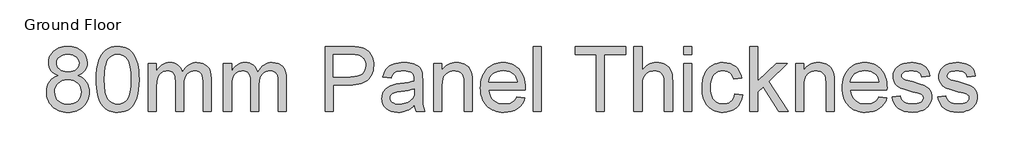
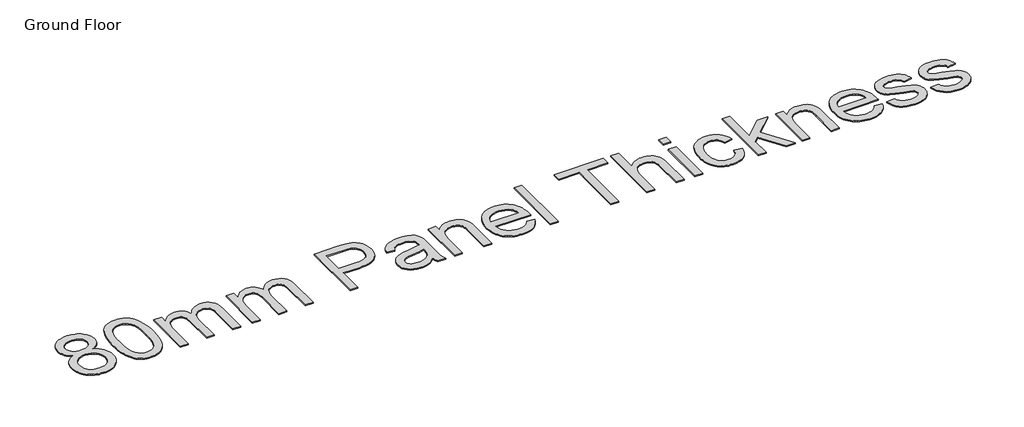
# One storey, part 13 of 14: 1 proxy.
"""IFC4 building model written with IfcOpenShell, lengths in millimetres."""

from ifc_helpers import new_model, si_unit, origin, origin_with_axes, place, context, project, spatial, polyline, outline, extrude, element, save

model = new_model("IFC4")

# Units and contexts
model_context = context("Model", 3, world=origin())
ifc_project = project(units=[si_unit("LENGTHUNIT", "METRE", prefix="MILLI")], contexts=[model_context])

# Site, building, storey
site = spatial("IfcSite", under=ifc_project)
building = spatial("IfcBuilding", under=site)
storey = spatial("IfcBuildingStorey", under=building, Name="Ground Floor", Elevation=0.0)

# Proxy
placement = place(None, origin())
element("IfcBuildingElementProxy", 1, Name="1200mm Arial", ObjectType="1200mm Arial", at=placement, inside=storey, context=model_context, shape_type="SweptSolid", body=[
    extrude(outline(polyline([(40752.4114106, 8749.7636274), (40710.1517337, 8767.4099342), (40673.7562259, 8788.4994229), (40643.2248871, 8813.0320933), (40618.5577174, 8841.0079456), (40599.5395178, 8872.1579811), (40585.9550895, 8906.2132013), (40577.8044326, 8943.1736061), (40575.0875469, 8983.0391956), (40581.0055157, 9042.9541459), (40588.4029766, 9071.0420809), (40598.7594219, 9097.8836558), (40612.0748516, 9123.4788707), (40628.3492657, 9147.8277254), (40669.7750469, 9192.7863547), (40694.4287668, 9212.6922496), (40721.0461762, 9229.9440251), (40749.6272753, 9244.5416814), (40780.172064, 9256.4852183), (40847.1527103, 9272.4099342), (40921.9881151, 9277.7181729), (40997.1821847, 9272.2844016), (41064.6649617, 9255.9830876), (41095.5146155, 9243.7571022), (41124.4364461, 9228.8142311), (41151.4304535, 9211.1544744), (41176.4966378, 9190.777832), (41218.6756151, 9144.940474), (41235.2459276, 9120.2464044), (41248.803456, 9094.3687411), (41259.3482003, 9067.307484), (41266.8801606, 9039.0626331), (41272.9057288, 8979.0221501), (41270.2247096, 8940.5643199), (41262.181652, 8904.6709428), (41248.7765562, 8871.3420188), (41230.0094219, 8840.5775479), (41205.7905832, 8812.7899946), (41176.0303736, 8788.3918234), (41140.7287934, 8767.3830344), (41099.8858424, 8749.7636274), (41148.1710874, 8729.2211026), (41190.3052316, 8703.1730734), (41226.2882749, 8671.6195401), (41256.1202174, 8634.5605024), (41279.5320604, 8592.8208895), (41296.2548055, 8547.2256303), (41306.2884525, 8497.7747247), (41309.6330015, 8444.4681729), (41307.9741769, 8407.0684037), (41302.9977032, 8371.1929598), (41294.7035803, 8336.8418412), (41283.0918083, 8304.0150479), (41268.1623871, 8272.7125798), (41249.9153168, 8242.9344371), (41228.3505974, 8214.6806196), (41203.4682288, 8187.9511274), (41175.8779411, 8163.606756), (41146.1894645, 8142.5083007), (41114.4027991, 8124.6557617), (41080.5179447, 8110.0491388), (41044.5349013, 8098.6884321), (41006.4536691, 8090.5736416), (40966.2742479, 8085.7047673), (40923.9966378, 8084.0818092), (40881.7190278, 8085.7114923), (40841.5396066, 8090.6005415), (40803.4583743, 8098.7489568), (40767.475331, 8110.1567382), (40733.5904766, 8124.8238858), (40701.8038111, 8142.7503994), (40672.1153346, 8163.9362792), (40644.5250469, 8188.3815251), (40619.6426783, 8215.2612082), (40598.0779589, 8243.7503994), (40579.8308886, 8273.8490988), (40564.9014674, 8305.5573064), (40553.2896954, 8338.8750221), (40544.9955725, 8373.802246), (40540.0190988, 8410.3389781), (40538.3602742, 8448.4852183), (40541.8393225, 8504.221724), (40552.2764674, 8555.2238547), (40569.6717089, 8601.4916104), (40594.0250469, 8643.0249911), (40624.7984844, 8679.0708007), (40661.4540242, 8708.8758433), (40703.9916663, 8732.4401189), (40752.4114106, 8749.7636274)]), holes=[polyline([(40721.9966378, 8978.7352183), (40725.2515207, 8945.0565962), (40735.0161691, 8914.605957), (40751.2905832, 8887.3833007), (40774.0747628, 8863.3886274), (40803.0817763, 8843.8055308), (40838.0246918, 8829.8176047), (40878.9035093, 8821.424849), (40925.7182288, 8818.6272638), (40971.3762543, 8821.4069158), (41011.3673765, 8829.7458717), (41045.6915952, 8843.6441317), (41074.3489106, 8863.1016956), (41096.9447913, 8886.5942382), (41113.084706, 8912.5974342), (41122.7686549, 8941.1112837), (41125.9966378, 8972.1357865), (41122.6610555, 9004.370783), (41112.6543083, 9033.9337268), (41095.9763964, 9060.8246182), (41072.6273197, 9085.043457), (41043.3244077, 9105.0659179), (41008.7849901, 9119.3676757), (40969.0090668, 9127.9487304), (40923.9966378, 9130.809082), (40878.6345107, 9128.0114967), (40838.6702884, 9119.6187411), (40804.1039709, 9105.6308149), (40774.9355583, 9086.0477183), (40751.7747806, 9062.5551757), (40735.231368, 9036.8389115), (40725.3053204, 9008.8989257), (40721.9966378, 8978.7352183)]), polyline([(40685.2693651, 8453.6499911), (40691.4025327, 8397.4472212), (40709.8020356, 8343.0377751), (40724.4265917, 8317.7967418), (40743.7675895, 8295.5864257), (40767.8250292, 8276.406827), (40796.5989106, 8260.2579456), (40827.9820782, 8247.4536132), (40859.8673765, 8238.3076615), (40892.2548055, 8232.8200905), (40925.1443651, 8230.9909001), (40978.262618, 8234.8375798), (41025.1401038, 8246.3776189), (41065.7768225, 8265.6110173), (41100.1727742, 8292.5377751), (41127.5388964, 8325.4004349), (41147.0861265, 8362.4415393), (41158.8144645, 8403.6610884), (41162.7239106, 8449.059082), (41158.6889319, 8495.1833717), (41146.5839958, 8537.1471501), (41126.4091023, 8574.9504172), (41098.1642515, 8608.5931729), (41062.8357714, 8636.2103604), (41021.4099901, 8655.9369229), (40973.8869077, 8667.7728604), (40920.2665242, 8671.7181729), (40867.9283672, 8667.8266601), (40821.6695782, 8656.1521217), (40781.490157, 8636.6945578), (40747.3901038, 8609.4539683), (40720.2122806, 8576.367143), (40700.7995498, 8539.3708717), (40689.1519113, 8498.4651544), (40685.2693651, 8453.6499911)])]), origin_with_axes(), (0.0, 0.0, 1.0), 20.0),
    extrude(outline(polyline([(41438.178456, 8680.6130592), (41440.8774084, 8779.4341707), (41448.9742657, 8868.7327325), (41462.4690278, 8948.5087446), (41481.3616947, 9018.762207), (41505.5715668, 9080.0669832), (41535.0179447, 9132.9969371), (41569.7008282, 9177.5520685), (41609.6202174, 9213.7323774), (41654.9106116, 9241.7261629), (41705.70651, 9261.721724), (41762.0079127, 9273.7190607), (41823.8148197, 9277.7181729), (41870.2619077, 9275.3509854), (41914.3418083, 9268.2494229), (41956.0545214, 9256.4134854), (41995.4000469, 9239.8431729), (42031.4279234, 9218.8164506), (42063.187689, 9193.6112837), (42090.6793438, 9164.2276722), (42113.9028878, 9130.6656161), (42134.0239816, 9093.0596146), (42152.2082856, 9051.5441672), (42182.7665242, 8956.7849342), (42194.4410626, 8901.0573952), (42202.7800185, 8836.452903), (42207.7833921, 8762.9714577), (42209.4511833, 8680.6130592), (42206.7791307, 8582.4196111), (42198.7629731, 8493.5693803), (42185.4027103, 8414.0623668), (42166.6983424, 8343.8985706), (42142.6767692, 8282.5668945), (42113.3648907, 8229.5562411), (42078.7627067, 8184.8666104), (42038.8702174, 8148.4980024), (41993.5260235, 8120.3159179), (41942.5687259, 8100.1858575), (41885.9983246, 8088.1078213), (41823.8148197, 8084.0818092), (41782.209706, 8085.8303), (41742.9000469, 8091.0757723), (41705.8858424, 8099.8182261), (41671.1670924, 8112.0576615), (41638.7437969, 8127.7940784), (41608.615956, 8147.0274768), (41580.7835697, 8169.7578568), (41555.2466378, 8195.9852183), (41527.8087827, 8237.5141157), (41504.0293083, 8284.485751), (41483.9082145, 8336.9001242), (41467.4455015, 8394.7572354), (41454.6411691, 8458.0570844), (41445.4952174, 8526.7996715), (41440.0076464, 8600.9849964), (41438.178456, 8680.6130592)]), holes=[polyline([(41585.0875469, 8680.8999911), (41589.3915242, 8553.1884321), (41602.303456, 8449.812278), (41611.9874049, 8407.2499777), (41623.8233424, 8370.7715287), (41637.8112685, 8340.3769309), (41653.9511833, 8316.0661842), (41690.3915242, 8278.8457474), (41730.8489106, 8252.2597212), (41775.3233424, 8236.3081054), (41823.8148197, 8230.9909001), (41872.3062969, 8236.3260386), (41916.7807288, 8252.3314541), (41957.2381151, 8279.0071466), (41993.678456, 8316.3531161), (42009.8183708, 8340.7221457), (42023.8062969, 8371.1481267), (42035.6422344, 8407.6310591), (42045.3261833, 8450.1709428), (42058.2381151, 8553.4215642), (42062.5420924, 8680.8999911), (42058.381581, 8805.2311345), (42045.9000469, 8906.7870649), (42036.5388964, 8949.0243252), (42025.0974901, 8985.5677822), (42011.5758282, 9016.417436), (41995.9739106, 9041.5732865), (41960.1432998, 9080.613947), (41919.2196492, 9108.5001331), (41873.2029589, 9125.2318447), (41822.0932288, 9130.809082), (41773.8528168, 9125.8953746), (41730.131581, 9111.1542524), (41690.9295214, 9086.5857155), (41656.2466378, 9052.1897638), (41639.5687259, 9024.3573774), (41625.1145356, 8991.2167524), (41612.8840668, 8952.7678888), (41602.8773197, 8909.0107865), (41589.5349901, 8805.5718661), (41585.0875469, 8680.8999911)])]), origin_with_axes(), (0.0, 0.0, 1.0), 20.0),
    extrude(outline(polyline([(42374.7239106, 8102.4454456), (42374.7239106, 8965.5363547), (42521.6330015, 8965.5363547), (42521.6330015, 8823.5051047), (42542.1486265, 8857.8920898), (42565.8205015, 8888.7462268), (42592.6486265, 8916.0675159), (42622.6330015, 8939.855957), (42655.289429, 8959.1252219), (42690.1337117, 8972.8889825), (42727.1658495, 8981.1472389), (42766.3858424, 8983.8999911), (42809.264216, 8981.0934392), (42848.0896776, 8972.6737837), (42882.8622273, 8958.6410244), (42913.5818651, 8938.9951615), (42940.1589248, 8914.2921253), (42962.5037401, 8885.0878462), (42980.6163111, 8851.3823242), (42994.4966378, 8813.1755592), (43020.3294681, 8853.1890979), (43048.0452884, 8887.8674982), (43077.6440988, 8917.2107599), (43109.1258992, 8941.2188831), (43142.4906897, 8959.8918678), (43177.7384702, 8973.2297141), (43214.8692408, 8981.2324218), (43253.8830015, 8983.8999911), (43312.6950576, 8979.4615145), (43364.315885, 8966.1460848), (43408.7454837, 8943.953702), (43445.9838538, 8912.8843661), (43475.421265, 8872.5794122), (43496.4479873, 8822.6801757), (43509.0640207, 8763.1866565), (43513.2693651, 8694.0988547), (43513.2693651, 8102.4454456), (43366.3602742, 8102.4454456), (43366.3602742, 8630.9738547), (43362.9529589, 8704.2490678), (43352.7310128, 8753.637207), (43344.5355228, 8771.4538795), (43333.578314, 8787.459295), (43319.8593864, 8801.6534534), (43303.3787401, 8814.0363547), (43284.7371386, 8824.0789683), (43264.5353452, 8831.2522638), (43219.4511833, 8836.9909001), (43177.8191698, 8833.3145862), (43139.8634702, 8822.2856445), (43105.5840846, 8803.9040749), (43074.9810128, 8778.1698774), (43049.8117124, 8744.3298561), (43031.8336407, 8701.6308149), (43021.0467976, 8650.0727538), (43017.4511833, 8589.6556729), (43017.4511833, 8102.4454456), (42870.5420924, 8102.4454456), (42870.5420924, 8647.3289683), (42868.4170036, 8691.8392666), (42862.0417373, 8730.3957297), (42851.4162934, 8762.9983575), (42836.5406719, 8789.6471501), (42816.8230761, 8810.3600408), (42791.6717089, 8825.1549626), (42761.0865704, 8834.0319158), (42725.0676606, 8836.9909001), (42696.2130796, 8835.0182439), (42668.4703594, 8829.1002751), (42641.8395001, 8819.2369939), (42616.3205015, 8805.4284001), (42593.0790242, 8787.8179598), (42573.2807288, 8766.5491388), (42556.9256151, 8741.6219371), (42544.0136833, 8713.0363547), (42534.222135, 8679.2680663), (42527.2281719, 8638.7927467), (42521.6330015, 8537.7210138), (42521.6330015, 8102.4454456), (42374.7239106, 8102.4454456)])), origin_with_axes(), (0.0, 0.0, 1.0), 20.0),
    extrude(outline(polyline([(43733.6330015, 8102.4454456), (43733.6330015, 8965.5363547), (43880.5420924, 8965.5363547), (43880.5420924, 8823.5051047), (43901.0577174, 8857.8920898), (43924.7295924, 8888.7462268), (43951.5577174, 8916.0675159), (43981.5420924, 8939.855957), (44014.1985199, 8959.1252219), (44049.0428026, 8972.8889825), (44086.0749404, 8981.1472389), (44125.2949333, 8983.8999911), (44168.1733069, 8981.0934392), (44206.9987685, 8972.6737837), (44241.7713182, 8958.6410244), (44272.490956, 8938.9951615), (44299.0680157, 8914.2921253), (44321.412831, 8885.0878462), (44339.525402, 8851.3823242), (44353.4057288, 8813.1755592), (44379.238559, 8853.1890979), (44406.9543793, 8887.8674982), (44436.5531897, 8917.2107599), (44468.0349901, 8941.2188831), (44501.3997806, 8959.8918678), (44536.6475611, 8973.2297141), (44573.7783317, 8981.2324218), (44612.7920924, 8983.8999911), (44671.6041485, 8979.4615145), (44723.2249759, 8966.1460848), (44767.6545746, 8943.953702), (44804.8929447, 8912.8843661), (44834.3303559, 8872.5794122), (44855.3570782, 8822.6801757), (44867.9731116, 8763.1866565), (44872.178456, 8694.0988547), (44872.178456, 8102.4454456), (44725.2693651, 8102.4454456), (44725.2693651, 8630.9738547), (44721.8620498, 8704.2490678), (44711.6401038, 8753.637207), (44703.4446137, 8771.4538795), (44692.4874049, 8787.459295), (44678.7684773, 8801.6534534), (44662.287831, 8814.0363547), (44643.6462295, 8824.0789683), (44623.4444361, 8831.2522638), (44578.3602742, 8836.9909001), (44536.7282607, 8833.3145862), (44498.7725611, 8822.2856445), (44464.4931755, 8803.9040749), (44433.8901038, 8778.1698774), (44408.7208033, 8744.3298561), (44390.7427316, 8701.6308149), (44379.9558886, 8650.0727538), (44376.3602742, 8589.6556729), (44376.3602742, 8102.4454456), (44229.4511833, 8102.4454456), (44229.4511833, 8647.3289683), (44227.3260945, 8691.8392666), (44220.9508282, 8730.3957297), (44210.3253843, 8762.9983575), (44195.4497628, 8789.6471501), (44175.732167, 8810.3600408), (44150.5807998, 8825.1549626), (44119.9956613, 8834.0319158), (44083.9767515, 8836.9909001), (44055.1221705, 8835.0182439), (44027.3794503, 8829.1002751), (44000.748591, 8819.2369939), (43975.2295924, 8805.4284001), (43951.9881151, 8787.8179598), (43932.1898197, 8766.5491388), (43915.834706, 8741.6219371), (43902.9227742, 8713.0363547), (43893.1312259, 8679.2680663), (43886.1372628, 8638.7927467), (43880.5420924, 8537.7210138), (43880.5420924, 8102.4454456), (43733.6330015, 8102.4454456)])), origin_with_axes(), (0.0, 0.0, 1.0), 20.0),
    extrude(outline(polyline([(45569.9966378, 8102.4454456), (45569.9966378, 9277.7181729), (46005.5591378, 9277.7181729), (46106.9895356, 9274.9205876), (46181.1614106, 9266.527832), (46222.040228, 9257.7136452), (46259.4579305, 9245.6176757), (46293.4145178, 9230.2399236), (46323.9099901, 9211.5803888), (46351.2671457, 9189.2535067), (46375.8087827, 9162.8737126), (46397.5349013, 9132.4410067), (46416.4455015, 9097.9553888), (46431.7604873, 9060.5556196), (46442.6997628, 9021.3804598), (46449.2633282, 8980.4299094), (46451.4511833, 8937.7039683), (46445.5421812, 8865.5585493), (46438.1559285, 8831.6512783), (46427.8151748, 8799.1876331), (46414.51992, 8768.1676136), (46398.2701641, 8738.5912197), (46379.0659072, 8710.4584516), (46356.9071492, 8683.7693092), (46330.8927449, 8659.4249378), (46300.1215491, 8638.3264825), (46264.5935617, 8620.4739435), (46224.3087827, 8605.8673206), (46179.2672122, 8594.5066139), (46129.4688502, 8586.3918234), (46074.9136966, 8581.5229492), (46015.6017515, 8579.8999911), (45716.9057288, 8579.8999911), (45716.9057288, 8102.4454456), (45569.9966378, 8102.4454456)]), holes=[polyline([(45716.9057288, 8726.809082), (46024.209706, 8726.809082), (46094.8666663, 8730.1805308), (46154.4767515, 8740.2948774), (46203.0399617, 8757.1521217), (46240.5562969, 8780.7522638), (46268.5500824, 8810.4676402), (46288.5456435, 8845.6705876), (46300.5429802, 8886.3611061), (46304.5420924, 8932.5391956), (46302.1838715, 8966.8275479), (46295.1092089, 8998.5335138), (46283.3181045, 9027.6570933), (46266.8105583, 9054.1982865), (46246.4652991, 9077.2962979), (46223.1610555, 9096.090332), (46196.8978275, 9110.5803888), (46167.6756151, 9120.7664683), (46111.006581, 9128.2984286), (46020.7665242, 9130.809082), (45716.9057288, 9130.809082), (45716.9057288, 8726.809082)])]), origin_with_axes(), (0.0, 0.0, 1.0), 20.0),
    extrude(outline(polyline([(47185.9966378, 8212.6272638), (47151.1613218, 8179.9349697), (47115.8059418, 8152.4433149), (47079.9304979, 8130.1522993), (47043.5349901, 8113.0619229), (47006.2069539, 8100.3831232), (46967.5339248, 8091.3268376), (46927.5159028, 8085.8930663), (46886.1528878, 8084.0818092), (46820.7413999, 8088.4395862), (46763.3819361, 8101.5129172), (46714.0744965, 8123.3018021), (46672.819081, 8153.8062411), (46640.243353, 8191.0894442), (46616.9749759, 8233.2146217), (46603.0139496, 8280.1817737), (46598.3602742, 8331.9909001), (46600.1177316, 8363.1409357), (46605.3901038, 8392.8921786), (46614.1773907, 8421.2446288), (46626.4795924, 8448.1982865), (46641.6421457, 8473.1613547), (46659.0104873, 8495.5420365), (46678.5846172, 8515.340332), (46700.3645356, 8532.5562411), (46748.9636123, 8560.5320933), (46803.2295924, 8580.7607865), (46856.0967799, 8592.0228604), (46930.3403878, 8602.8545365), (47080.5491947, 8626.0960138), (47138.5452884, 8639.2231445), (47185.1358424, 8653.3545365), (47185.9966378, 8686.0647638), (47183.4680512, 8721.6801757), (47175.8822913, 8751.6286842), (47163.239358, 8775.9102893), (47145.5392515, 8794.5249911), (47114.9451464, 8813.1038263), (47077.6798765, 8826.3744229), (47033.7434418, 8834.3367808), (46983.1358424, 8836.9909001), (46936.0790242, 8835.2244761), (46895.6216378, 8829.9252041), (46861.7636833, 8821.0930841), (46834.5051606, 8808.7281161), (46812.1065455, 8791.8619051), (46792.828314, 8769.5260564), (46776.670466, 8741.7205699), (46763.6330015, 8708.4454456), (46616.7239106, 8726.809082), (46627.9052849, 8769.1315251), (46642.2249759, 8807.1499911), (46659.6829837, 8840.8644797), (46680.2793083, 8870.2749911), (46704.9016449, 8895.973322), (46734.437689, 8918.5512695), (46768.8874404, 8938.0088334), (46808.2508992, 8954.3460138), (46851.7300363, 8967.2758788), (46898.5268225, 8976.5114967), (46948.6412579, 8982.0528675), (47002.0733424, 8983.8999911), (47054.3038999, 8982.2680663), (47101.387618, 8977.3722922), (47143.3244965, 8969.2126686), (47180.1145356, 8957.7891956), (47212.0626002, 8943.8999023), (47239.4735555, 8928.3428178), (47262.3474013, 8911.117942), (47280.6841378, 8892.2252751), (47295.5507927, 8871.1985528), (47308.0143935, 8847.5715109), (47325.7324333, 8792.5164683), (47331.1124049, 8741.7295365), (47332.9057288, 8663.9710138), (47332.9057288, 8481.1954456), (47334.7707856, 8321.984153), (47340.365956, 8225.9695933), (47351.412831, 8162.8804598), (47369.6330015, 8102.4454456), (47222.7239106, 8102.4454456), (47209.6685128, 8126.9781161), (47199.1955015, 8153.5193092), (47185.9966378, 8212.6272638)]), holes=[polyline([(47185.9966378, 8506.4454456), (47141.593939, 8493.7307794), (47087.2920924, 8481.9845081), (46948.990956, 8461.3971501), (46872.7746918, 8450.1350763), (46822.5974901, 8437.5818092), (46789.7079305, 8421.2984286), (46765.3545924, 8398.8460138), (46750.2906719, 8371.9461558), (46745.2693651, 8342.3204456), (46748.004184, 8319.4914328), (46756.2086407, 8298.6350763), (46769.8827351, 8279.751376), (46789.0264674, 8262.840332), (46813.460505, 8248.9062055), (46843.0055157, 8238.9532581), (46877.6614993, 8232.9814896), (46917.428456, 8230.9909001), (46958.0293083, 8233.1877219), (46996.334706, 8239.7781871), (47032.3446492, 8250.7622957), (47066.0591378, 8266.1400479), (47096.4739106, 8284.6381835), (47122.584706, 8304.9834428), (47144.3915242, 8327.1758256), (47161.8943651, 8351.215332), (47172.0625114, 8372.7352183), (47179.3254731, 8398.8460138), (47183.6832501, 8429.5477183), (47185.1358424, 8464.840332), (47185.9966378, 8506.4454456)])]), origin_with_axes(), (0.0, 0.0, 1.0), 20.0),
    extrude(outline(polyline([(47534.9057288, 8102.4454456), (47534.9057288, 8965.5363547), (47681.8148197, 8965.5363547), (47681.8148197, 8845.0249911), (47706.0515917, 8877.5738192), (47732.8528168, 8905.7828036), (47762.2184951, 8929.6519442), (47794.1486265, 8949.1812411), (47828.643211, 8964.3706942), (47865.7022486, 8975.2203036), (47905.3257394, 8981.7300692), (47947.5136833, 8983.8999911), (47984.4830547, 8982.1515003), (48019.9281009, 8976.906028), (48053.8488218, 8968.1635742), (48086.2452174, 8955.9241388), (48115.8888609, 8940.8422851), (48141.5513253, 8923.5725763), (48163.2326109, 8904.1150124), (48180.9327174, 8882.4695933), (48207.653243, 8832.7227893), (48224.9767515, 8774.4397638), (48230.7871208, 8718.7032581), (48232.7239106, 8632.4085138), (48232.7239106, 8102.4454456), (48085.8148197, 8102.4454456), (48085.8148197, 8612.6102183), (48081.5825753, 8688.5754172), (48076.2922699, 8718.3266601), (48068.8858424, 8742.590332), (48058.7983957, 8763.0252574), (48045.4650327, 8781.2902609), (48028.8857536, 8797.3853426), (48009.0605583, 8811.3105024), (47986.6709099, 8822.5456764), (47962.3982714, 8830.5708007), (47936.2426428, 8835.3858753), (47908.2040242, 8836.9909001), (47863.5950931, 8833.3863192), (47822.1603452, 8822.5725763), (47783.8997806, 8804.5496715), (47748.8133992, 8779.3176047), (47733.1106071, 8763.280806), (47719.5015207, 8744.0070578), (47707.9861398, 8721.49636), (47698.5644645, 8695.7487126), (47686.0022309, 8634.5425692), (47681.8148197, 8560.3886274), (47681.8148197, 8102.4454456), (47534.9057288, 8102.4454456)])), origin_with_axes(), (0.0, 0.0, 1.0), 20.0),
    extrude(outline(polyline([(49039.0023197, 8359.5363547), (49183.0420924, 8341.1727183), (49160.957309, 8283.4814896), (49131.1432998, 8232.6407581), (49093.6000647, 8188.6505237), (49048.3276038, 8151.5107865), (48995.7921812, 8122.010609), (48936.4600611, 8100.9390536), (48870.3312437, 8088.2961203), (48797.4057288, 8084.0818092), (48750.586526, 8085.8997913), (48706.2510768, 8091.3537375), (48664.3993811, 8100.4436478), (48625.031439, 8113.1695223), (48588.1472504, 8129.5313609), (48553.7468154, 8149.5291636), (48521.8301339, 8173.1629305), (48492.397206, 8200.4326615), (48465.9680956, 8230.9841752), (48443.0628665, 8264.4632901), (48423.6815189, 8300.8700061), (48407.8240526, 8340.2043234), (48395.4904677, 8382.4662419), (48386.6807643, 8427.6557617), (48381.3949422, 8475.7728826), (48379.6330015, 8526.8176047), (48381.4128754, 8579.5996093), (48386.7524972, 8629.34193), (48395.6518669, 8676.0445667), (48408.1109844, 8719.7075195), (48424.1298498, 8760.3307883), (48443.7084631, 8797.9143732), (48466.8468243, 8832.4582741), (48493.5449333, 8863.9624911), (48523.0809773, 8892.0728426), (48554.7331435, 8916.4351473), (48588.5014319, 8937.0494051), (48624.3858424, 8953.9156161), (48662.3863751, 8967.0337801), (48702.5030299, 8976.4038973), (48744.7358069, 8982.0259676), (48789.084706, 8983.8999911), (48831.9832545, 8982.0304509), (48872.8777636, 8976.4218305), (48911.7682332, 8967.0741299), (48948.6546634, 8953.987349), (48983.5370542, 8937.1614879), (49016.4154056, 8916.5965465), (49047.2897176, 8892.2925248), (49076.1599901, 8864.2494229), (49102.2864772, 8832.8169389), (49124.9294326, 8798.3447709), (49144.0888564, 8760.832919), (49159.7647486, 8720.2813831), (49171.9571093, 8676.6901633), (49180.6659383, 8630.0592595), (49185.8912357, 8580.3886718), (49187.6330015, 8527.6784001), (49186.772206, 8488.0818092), (48526.5420924, 8488.0818092), (48535.0514141, 8429.4580521), (48551.9714248, 8378.1151899), (48577.3021243, 8334.0532226), (48611.0435128, 8297.2721501), (48651.3305334, 8268.2741033), (48696.2981293, 8247.5612126), (48745.9463005, 8235.1334783), (48800.2750469, 8230.9909001), (48840.9117657, 8232.9097567), (48878.4639674, 8238.6663263), (48912.931652, 8248.260609), (48944.3148197, 8261.6926047), (48972.6134702, 8279.3209783), (48997.8276038, 8301.5043945), (49019.9572202, 8328.2428533), (49039.0023197, 8359.5363547)]), holes=[polyline([(48526.5420924, 8634.9909001), (49040.7239106, 8634.9909001), (49033.1740171, 8676.5601473), (49020.8538822, 8712.605957), (49003.7635057, 8743.1283291), (48981.9028878, 8768.1272638), (48941.8400327, 8798.2551047), (48896.2537401, 8819.7749911), (48845.14401, 8832.6869229), (48788.5108424, 8836.9909001), (48736.8541485, 8833.5566849), (48689.4834986, 8823.2540393), (48646.3988928, 8806.0829634), (48607.600331, 8782.043457), (48575.0425363, 8752.247381), (48550.6802316, 8717.8065962), (48534.513417, 8678.7211026), (48526.5420924, 8634.9909001)])]), origin_with_axes(), (0.0, 0.0, 1.0), 20.0),
    extrude(outline(polyline([(49334.5420924, 8102.4454456), (49334.5420924, 9277.7181729), (49481.4511833, 9277.7181729), (49481.4511833, 8102.4454456), (49334.5420924, 8102.4454456)])), origin_with_axes(), (0.0, 0.0, 1.0), 20.0),
    extrude(outline(polyline([(50473.0875469, 8102.4454456), (50473.0875469, 9130.809082), (50087.4511833, 9130.809082), (50087.4511833, 9277.7181729), (51005.6330015, 9277.7181729), (51005.6330015, 9130.809082), (50619.9966378, 9130.809082), (50619.9966378, 8102.4454456), (50473.0875469, 8102.4454456)])), origin_with_axes(), (0.0, 0.0, 1.0), 20.0),
    extrude(outline(polyline([(51152.5420924, 8102.4454456), (51152.5420924, 9277.7181729), (51299.4511833, 9277.7181729), (51299.4511833, 8845.5988547), (51325.6023285, 8878.0131835), (51353.4122984, 8906.1056018), (51382.8810927, 8929.8761097), (51414.0087117, 8949.324707), (51446.7951552, 8964.4513938), (51481.2404234, 8975.25617), (51517.344516, 8981.7390358), (51555.1074333, 8983.8999911), (51601.0344574, 8981.5417702), (51643.8410981, 8974.4671075), (51683.5273552, 8962.6760031), (51720.0932288, 8946.168457), (51752.6061904, 8925.5003994), (51780.1337117, 8901.2277609), (51802.6757927, 8873.3505415), (51820.2324333, 8841.8687411), (51833.4133637, 8804.8366033), (51842.828314, 8760.3083717), (51848.4772842, 8708.2840465), (51850.3602742, 8648.7636274), (51850.3602742, 8102.4454456), (51703.4511833, 8102.4454456), (51703.4511833, 8633.5562411), (51700.5280654, 8683.1595791), (51691.7587117, 8725.5178888), (51677.1431222, 8760.63117), (51656.6812969, 8788.4994229), (51630.8574333, 8809.7144442), (51600.1557288, 8824.8680308), (51564.5761833, 8833.9601828), (51524.1187969, 8836.9909001), (51492.60113, 8834.9465109), (51462.0339248, 8828.8133433), (51432.4171812, 8818.5913973), (51403.7508992, 8804.2806729), (51377.586304, 8786.4729669), (51355.4746208, 8765.7600763), (51337.4158495, 8742.142001), (51323.4099901, 8715.6187411), (51312.9280121, 8684.9708362), (51305.440885, 8648.9788263), (51300.9486087, 8607.6427112), (51299.4511833, 8560.9624911), (51299.4511833, 8102.4454456), (51152.5420924, 8102.4454456)])), origin_with_axes(), (0.0, 0.0, 1.0), 20.0),
    extrude(outline(polyline([(52052.3602742, 9130.809082), (52052.3602742, 9277.7181729), (52199.2693651, 9277.7181729), (52199.2693651, 9130.809082), (52052.3602742, 9130.809082)])), origin_with_axes(), (0.0, 0.0, 1.0), 20.0),
    extrude(outline(polyline([(52052.3602742, 8102.4454456), (52052.3602742, 8965.5363547), (52199.2693651, 8965.5363547), (52199.2693651, 8102.4454456), (52052.3602742, 8102.4454456)])), origin_with_axes(), (0.0, 0.0, 1.0), 20.0),
    extrude(outline(polyline([(52970.5420924, 8414.6272638), (53117.4511833, 8396.2636274), (53101.4726677, 8326.9426935), (53076.4916663, 8265.6020507), (53042.508179, 8212.2416992), (52999.522206, 8166.8616388), (52949.3450043, 8130.6454634), (52893.787831, 8104.7767666), (52832.8506861, 8089.2555486), (52766.5335697, 8084.0818092), (52724.2716512, 8085.8863414), (52684.1393047, 8091.2999378), (52646.1365304, 8100.3225985), (52610.2633282, 8112.9543234), (52576.519698, 8129.1951127), (52544.90564, 8149.0449662), (52515.421154, 8172.503884), (52488.0662401, 8199.5718661), (52463.4192453, 8230.011297), (52442.0585164, 8263.5845614), (52423.9840535, 8300.2916592), (52409.1958566, 8340.1325905), (52397.6939257, 8383.1073552), (52389.4782607, 8429.2159534), (52384.5488617, 8478.4583851), (52382.9057288, 8530.8346501), (52385.7122806, 8598.3801935), (52394.1319361, 8661.5679598), (52408.1646954, 8720.3979492), (52427.8105583, 8774.8701615), (52453.2040242, 8823.8906693), (52484.4795924, 8866.365545), (52521.6372628, 8902.2947886), (52564.6770356, 8931.6784001), (52611.6531542, 8954.5253462), (52660.6198623, 8970.8445933), (52711.5771599, 8980.6361416), (52764.5250469, 8983.8999911), (52829.7034028, 8979.4166814), (52888.6589248, 8965.9667524), (52941.391613, 8943.5502041), (52987.9014674, 8912.1670365), (53027.3994255, 8872.5345791), (53059.0964248, 8825.3701615), (53082.9924653, 8770.6737837), (53099.0875469, 8708.4454456), (52952.178456, 8690.0818092), (52940.7101499, 8724.3970614), (52925.5296634, 8754.1752041), (52906.6369965, 8779.4162375), (52884.0321492, 8800.1201615), (52858.2889851, 8816.2511097), (52829.981368, 8827.7732155), (52799.1092976, 8834.686479), (52765.6727742, 8836.9909001), (52715.7556045, 8832.4537908), (52670.7342089, 8818.8424626), (52630.6085874, 8796.1569158), (52595.3787401, 8764.3971501), (52580.0121963, 8744.9306196), (52566.6945249, 8722.827903), (52546.2057998, 8670.7139115), (52533.9125647, 8608.0551757), (52529.8148197, 8534.8516956), (52533.8228985, 8460.5453213), (52545.847135, 8397.1602893), (52565.8875292, 8344.6965997), (52578.9137854, 8322.5602583), (52593.944081, 8303.1542524), (52628.474532, 8271.5827858), (52667.9366236, 8249.0317382), (52712.3303559, 8235.5011097), (52761.6557288, 8230.9909001), (52801.4047522, 8233.8064186), (52837.728527, 8242.252974), (52870.6270533, 8256.3305663), (52900.100331, 8276.0391956), (52925.3234312, 8301.5940607), (52945.4714248, 8333.2103604), (52960.5443118, 8370.8880947), (52970.5420924, 8414.6272638)])), origin_with_axes(), (0.0, 0.0, 1.0), 20.0),
    extrude(outline(polyline([(53245.9966378, 8102.4454456), (53245.9966378, 9277.7181729), (53392.9057288, 9277.7181729), (53392.9057288, 8646.1812411), (53722.303456, 8965.5363547), (53925.4511833, 8965.5363547), (53592.0364106, 8642.1641956), (53943.8148197, 8102.4454456), (53772.2295924, 8102.4454456), (53486.7324333, 8540.0164683), (53392.9057288, 8449.059082), (53392.9057288, 8102.4454456), (53245.9966378, 8102.4454456)])), origin_with_axes(), (0.0, 0.0, 1.0), 20.0),
    extrude(outline(polyline([(54072.3602742, 8102.4454456), (54072.3602742, 8965.5363547), (54219.2693651, 8965.5363547), (54219.2693651, 8845.0249911), (54243.5061371, 8877.5738192), (54270.3073623, 8905.7828036), (54299.6730405, 8929.6519442), (54331.6031719, 8949.1812411), (54366.0977565, 8964.3706942), (54403.1567941, 8975.2203036), (54442.7802849, 8981.7300692), (54484.9682288, 8983.8999911), (54521.9376002, 8982.1515003), (54557.3826464, 8976.906028), (54591.3033672, 8968.1635742), (54623.6997628, 8955.9241388), (54653.3434063, 8940.8422851), (54679.0058708, 8923.5725763), (54700.6871563, 8904.1150124), (54718.3872628, 8882.4695933), (54745.1077884, 8832.7227893), (54762.4312969, 8774.4397638), (54768.2416663, 8718.7032581), (54770.178456, 8632.4085138), (54770.178456, 8102.4454456), (54623.2693651, 8102.4454456), (54623.2693651, 8612.6102183), (54619.0371208, 8688.5754172), (54613.7468154, 8718.3266601), (54606.3403878, 8742.590332), (54596.2529411, 8763.0252574), (54582.9195782, 8781.2902609), (54566.3402991, 8797.3853426), (54546.5151038, 8811.3105024), (54524.1254553, 8822.5456764), (54499.8528168, 8830.5708007), (54473.6971883, 8835.3858753), (54445.6585697, 8836.9909001), (54401.0496386, 8833.3863192), (54359.6148907, 8822.5725763), (54321.3543261, 8804.5496715), (54286.2679447, 8779.3176047), (54270.5651526, 8763.280806), (54256.9560661, 8744.0070578), (54245.4406853, 8721.49636), (54236.01901, 8695.7487126), (54223.4567763, 8634.5425692), (54219.2693651, 8560.3886274), (54219.2693651, 8102.4454456), (54072.3602742, 8102.4454456)])), origin_with_axes(), (0.0, 0.0, 1.0), 20.0),
    extrude(outline(polyline([(55576.4568651, 8359.5363547), (55720.4966378, 8341.1727183), (55698.4118545, 8283.4814896), (55668.5978452, 8232.6407581), (55631.0546101, 8188.6505237), (55585.7821492, 8151.5107865), (55533.2467266, 8122.010609), (55473.9146066, 8100.9390536), (55407.7857891, 8088.2961203), (55334.8602742, 8084.0818092), (55288.0410714, 8085.8997913), (55243.7056222, 8091.3537375), (55201.8539266, 8100.4436478), (55162.4859844, 8113.1695223), (55125.6017959, 8129.5313609), (55091.2013609, 8149.5291636), (55059.2846794, 8173.1629305), (55029.8517515, 8200.4326615), (55003.422641, 8230.9841752), (54980.517412, 8264.4632901), (54961.1360643, 8300.8700061), (54945.2785981, 8340.2043234), (54932.9450132, 8382.4662419), (54924.1353097, 8427.6557617), (54918.8494876, 8475.7728826), (54917.0875469, 8526.8176047), (54918.8674209, 8579.5996093), (54924.2070427, 8629.34193), (54933.1064123, 8676.0445667), (54945.5655299, 8719.7075195), (54961.5843953, 8760.3307883), (54981.1630086, 8797.9143732), (55004.3013697, 8832.4582741), (55030.9994788, 8863.9624911), (55060.5355228, 8892.0728426), (55092.187689, 8916.4351473), (55125.9559773, 8937.0494051), (55161.8403878, 8953.9156161), (55199.8409205, 8967.0337801), (55239.9575753, 8976.4038973), (55282.1903523, 8982.0259676), (55326.5392515, 8983.8999911), (55369.4378, 8982.0304509), (55410.332309, 8976.4218305), (55449.2227786, 8967.0741299), (55486.1092089, 8953.987349), (55520.9915997, 8937.1614879), (55553.8699511, 8916.5965465), (55584.744263, 8892.2925248), (55613.6145356, 8864.2494229), (55639.7410226, 8832.8169389), (55662.383978, 8798.3447709), (55681.5434019, 8760.832919), (55697.2192941, 8720.2813831), (55709.4116547, 8676.6901633), (55718.1204837, 8630.0592595), (55723.3457811, 8580.3886718), (55725.0875469, 8527.6784001), (55724.2267515, 8488.0818092), (55063.9966378, 8488.0818092), (55072.5059596, 8429.4580521), (55089.4259702, 8378.1151899), (55114.7566698, 8334.0532226), (55148.4980583, 8297.2721501), (55188.7850789, 8268.2741033), (55233.7526748, 8247.5612126), (55283.4008459, 8235.1334783), (55337.7295924, 8230.9909001), (55378.3663111, 8232.9097567), (55415.9185128, 8238.6663263), (55450.3861975, 8248.260609), (55481.7693651, 8261.6926047), (55510.0680157, 8279.3209783), (55535.2821492, 8301.5043945), (55557.4117657, 8328.2428533), (55576.4568651, 8359.5363547)]), holes=[polyline([(55063.9966378, 8634.9909001), (55578.178456, 8634.9909001), (55570.6285626, 8676.5601473), (55558.3084276, 8712.605957), (55541.2180512, 8743.1283291), (55519.3574333, 8768.1272638), (55479.2945782, 8798.2551047), (55433.7082856, 8819.7749911), (55382.5985555, 8832.6869229), (55325.9653878, 8836.9909001), (55274.308694, 8833.5566849), (55226.9380441, 8823.2540393), (55183.8534383, 8806.0829634), (55145.0548765, 8782.043457), (55112.4970817, 8752.247381), (55088.134777, 8717.8065962), (55071.9679624, 8678.7211026), (55063.9966378, 8634.9909001)])]), origin_with_axes(), (0.0, 0.0, 1.0), 20.0),
    extrude(outline(polyline([(55816.9057288, 8359.5363547), (55963.8148197, 8377.8999911), (55972.6917728, 8344.4007013), (55986.984564, 8315.0619229), (56006.6931932, 8289.8836558), (56031.8176606, 8268.8659001), (56062.4296989, 8252.2955876), (56098.6010413, 8240.4596501), (56140.3316876, 8233.3580876), (56187.6216378, 8230.9909001), (56234.8577884, 8233.160822), (56275.5662401, 8239.6705876), (56309.746993, 8250.520197), (56337.4000469, 8265.7096501), (56358.7406009, 8283.8222212), (56373.9838538, 8303.4411842), (56383.1298055, 8324.5665393), (56386.178456, 8347.1982865), (56383.1118722, 8367.0324484), (56373.9121208, 8384.6428888), (56358.5792018, 8400.0296075), (56337.1131151, 8413.1926047), (56282.093939, 8431.8431729), (56185.9000469, 8455.0846501), (56051.8311549, 8493.8563121), (55964.6756151, 8526.9610706), (55934.7540065, 8543.558283), (55908.6880441, 8563.0786132), (55886.477728, 8585.5220614), (55868.1230583, 8610.8886274), (55853.7495675, 8638.4161487), (55843.4827884, 8667.3424626), (55837.3227209, 8697.6675692), (55835.2693651, 8729.3914683), (55836.9192231, 8758.3984818), (55841.8687969, 8786.3115678), (55850.1180867, 8813.1307261), (55861.6670924, 8838.855957), (55876.067483, 8862.9671963), (55892.8709276, 8884.9443803), (55912.0774262, 8904.7875088), (55933.6869788, 8922.496582), (55974.2519645, 8946.1325905), (56027.0832856, 8965.9667524), (56088.1638964, 8979.4166814), (56153.4767515, 8983.8999911), (56202.8469574, 8982.0977006), (56249.0967799, 8976.6908291), (56292.2262188, 8967.6793767), (56332.2352742, 8955.0633433), (56368.1734844, 8939.3717595), (56399.0903878, 8921.1336558), (56424.9859844, 8900.3490322), (56445.8602742, 8877.0178888), (56462.7892515, 8850.3242631), (56476.8489106, 8819.4521928), (56488.0392515, 8784.4016778), (56496.3602742, 8745.1727183), (56349.4511833, 8726.809082), (56342.4482536, 8751.350719), (56330.9082145, 8773.0409712), (56314.8310661, 8791.8798384), (56294.2168083, 8807.8673206), (56268.9757749, 8820.6088867), (56239.0182998, 8829.7100053), (56204.3443829, 8835.1706764), (56164.9540242, 8836.9909001), (56119.2601322, 8835.251376), (56080.5960697, 8830.0328036), (56048.9618367, 8821.3351828), (56024.3574333, 8809.1585138), (56005.9041307, 8794.668457), (55992.7232003, 8779.0306729), (55984.8146421, 8762.2451615), (55982.178456, 8744.3119229), (55986.5541663, 8721.7160422), (55999.6812969, 8701.559082), (56022.1337117, 8683.5541104), (56054.4852742, 8669.1357865), (56181.022206, 8637.8602183), (56310.8229873, 8599.4830876), (56396.6514674, 8568.7096501), (56426.8510413, 8553.6995294), (56453.6074333, 8535.6407581), (56476.9206435, 8514.5333362), (56496.7906719, 8490.3772638), (56512.6705547, 8463.1366743), (56524.0133282, 8432.7757013), (56530.8189922, 8399.2943447), (56533.0875469, 8362.6926047), (56530.424461, 8325.9294655), (56522.4352032, 8290.2423206), (56509.1197735, 8255.63117), (56490.4781719, 8222.0960138), (56466.8152636, 8190.9728781), (56438.4359134, 8163.5977893), (56405.3401215, 8139.9707474), (56367.5278878, 8120.0917524), (56326.0303736, 8104.3374023), (56281.8787401, 8093.084295), (56235.0729873, 8086.3324307), (56185.6131151, 8084.0818092), (56106.545466, 8088.421653), (56037.484564, 8101.4411842), (55978.4304092, 8123.140403), (55929.3830015, 8153.5193092), (55889.3201464, 8192.4344371), (55857.2196492, 8239.7423206), (55833.08151, 8295.4429598), (55816.9057288, 8359.5363547)])), origin_with_axes(), (0.0, 0.0, 1.0), 20.0),
    extrude(outline(polyline([(56643.2693651, 8359.5363547), (56790.178456, 8377.8999911), (56799.0554092, 8344.4007013), (56813.3482003, 8315.0619229), (56833.0568296, 8289.8836558), (56858.1812969, 8268.8659001), (56888.7933353, 8252.2955876), (56924.9646776, 8240.4596501), (56966.6953239, 8233.3580876), (57013.9852742, 8230.9909001), (57061.2214248, 8233.160822), (57101.9298765, 8239.6705876), (57136.1106293, 8250.520197), (57163.7636833, 8265.7096501), (57185.1042373, 8283.8222212), (57200.3474901, 8303.4411842), (57209.4934418, 8324.5665393), (57212.5420924, 8347.1982865), (57209.4755086, 8367.0324484), (57200.2757572, 8384.6428888), (57184.9428381, 8400.0296075), (57163.4767515, 8413.1926047), (57108.4575753, 8431.8431729), (57012.2636833, 8455.0846501), (56878.1947913, 8493.8563121), (56791.0392515, 8526.9610706), (56761.1176428, 8543.558283), (56735.0516805, 8563.0786132), (56712.8413644, 8585.5220614), (56694.4866947, 8610.8886274), (56680.1132039, 8638.4161487), (56669.8464248, 8667.3424626), (56663.6863573, 8697.6675692), (56661.6330015, 8729.3914683), (56663.2828594, 8758.3984818), (56668.2324333, 8786.3115678), (56676.4817231, 8813.1307261), (56688.0307288, 8838.855957), (56702.4311194, 8862.9671963), (56719.234564, 8884.9443803), (56738.4410626, 8904.7875088), (56760.0506151, 8922.496582), (56800.6156009, 8946.1325905), (56853.4469219, 8965.9667524), (56914.5275327, 8979.4166814), (56979.8403878, 8983.8999911), (57029.2105938, 8982.0977006), (57075.4604163, 8976.6908291), (57118.5898552, 8967.6793767), (57158.5989106, 8955.0633433), (57194.5371208, 8939.3717595), (57225.4540242, 8921.1336558), (57251.3496208, 8900.3490322), (57272.2239106, 8877.0178888), (57289.1528878, 8850.3242631), (57303.2125469, 8819.4521928), (57314.4028878, 8784.4016778), (57322.7239106, 8745.1727183), (57175.8148197, 8726.809082), (57168.81189, 8751.350719), (57157.2718509, 8773.0409712), (57141.1947025, 8791.8798384), (57120.5804447, 8807.8673206), (57095.3394113, 8820.6088867), (57065.3819361, 8829.7100053), (57030.7080192, 8835.1706764), (56991.3176606, 8836.9909001), (56945.6237685, 8835.251376), (56906.959706, 8830.0328036), (56875.3254731, 8821.3351828), (56850.7210697, 8809.1585138), (56832.2677671, 8794.668457), (56819.0868367, 8779.0306729), (56811.1782785, 8762.2451615), (56808.5420924, 8744.3119229), (56812.9178026, 8721.7160422), (56826.0449333, 8701.559082), (56848.4973481, 8683.5541104), (56880.8489106, 8669.1357865), (57007.3858424, 8637.8602183), (57137.1866236, 8599.4830876), (57223.0151038, 8568.7096501), (57253.2146776, 8553.6995294), (57279.9710697, 8535.6407581), (57303.2842799, 8514.5333362), (57323.1543083, 8490.3772638), (57339.0341911, 8463.1366743), (57350.3769645, 8432.7757013), (57357.1826286, 8399.2943447), (57359.4511833, 8362.6926047), (57356.7880974, 8325.9294655), (57348.7988395, 8290.2423206), (57335.4834099, 8255.63117), (57316.8418083, 8222.0960138), (57293.1788999, 8190.9728781), (57264.7995498, 8163.5977893), (57231.7037579, 8139.9707474), (57193.8915242, 8120.0917524), (57152.39401, 8104.3374023), (57108.2423765, 8093.084295), (57061.4366236, 8086.3324307), (57011.9767515, 8084.0818092), (56932.9091023, 8088.421653), (56863.8482003, 8101.4411842), (56804.7940455, 8123.140403), (56755.7466378, 8153.5193092), (56715.6837827, 8192.4344371), (56683.5832856, 8239.7423206), (56659.4451464, 8295.4429598), (56643.2693651, 8359.5363547)])), origin_with_axes(), (0.0, 0.0, 1.0), 20.0),
])

save(model, "model.ifc")
